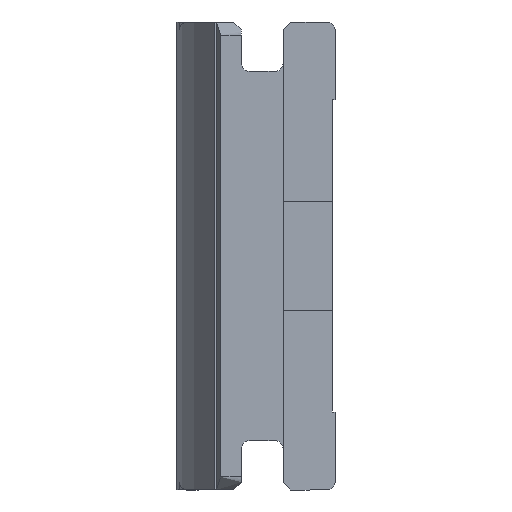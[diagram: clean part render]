
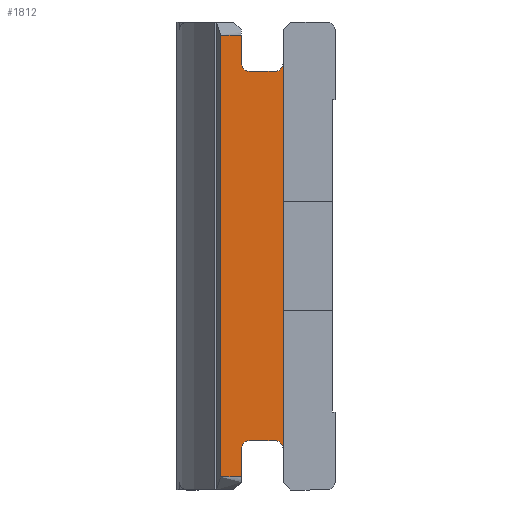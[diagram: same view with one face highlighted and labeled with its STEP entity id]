
A CAD part, left-side view. The second image highlights one B-rep face of the part: STEP entity #1812.
In plain terms, the highlighted planar face has unit normal (-1, 0, 0).
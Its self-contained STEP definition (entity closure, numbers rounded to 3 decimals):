
#34 = DIRECTION ( 'NONE',  ( 0., 0., -1. ) ) ;
#35 = DIRECTION ( 'NONE',  ( 0., -1., 0. ) ) ;
#41 = CARTESIAN_POINT ( 'NONE',  ( 10., 3.5, 7.4 ) ) ;
#63 = ORIENTED_EDGE ( 'NONE', *, *, #1537, .F. ) ;
#81 = CIRCLE ( 'NONE', #1804, 0.3 ) ;
#128 = ORIENTED_EDGE ( 'NONE', *, *, #358, .F. ) ;
#142 = CARTESIAN_POINT ( 'NONE',  ( 10., 2.2, -7.4 ) ) ;
#143 = VERTEX_POINT ( 'NONE', #41 ) ;
#147 = LINE ( 'NONE', #438, #1643 ) ;
#149 = DIRECTION ( 'NONE',  ( 0., 1., 0. ) ) ;
#173 = DIRECTION ( 'NONE',  ( -1., 0., 0. ) ) ;
#230 = EDGE_CURVE ( 'NONE', #945, #409, #698, .T. ) ;
#244 = CARTESIAN_POINT ( 'NONE',  ( 10., 4.3, -29.536 ) ) ;
#260 = ORIENTED_EDGE ( 'NONE', *, *, #1295, .F. ) ;
#266 = DIRECTION ( 'NONE',  ( -1., 0., 0. ) ) ;
#276 = DIRECTION ( 'NONE',  ( -1., 0., 0. ) ) ;
#305 = CARTESIAN_POINT ( 'NONE',  ( 10., 3.2, 7.4 ) ) ;
#347 = VECTOR ( 'NONE', #1265, 1000. ) ;
#358 = EDGE_CURVE ( 'NONE', #143, #515, #81, .T. ) ;
#371 = ORIENTED_EDGE ( 'NONE', *, *, #1756, .F. ) ;
#382 = CIRCLE ( 'NONE', #1050, 0.3 ) ;
#409 = VERTEX_POINT ( 'NONE', #1157 ) ;
#438 = CARTESIAN_POINT ( 'NONE',  ( 10., 1.9, -29.536 ) ) ;
#439 = EDGE_CURVE ( 'NONE', #1039, #1220, #1866, .T. ) ;
#488 = VERTEX_POINT ( 'NONE', #1143 ) ;
#515 = VERTEX_POINT ( 'NONE', #1582 ) ;
#518 = CARTESIAN_POINT ( 'NONE',  ( 10., 1.9, -8.5 ) ) ;
#527 = EDGE_CURVE ( 'NONE', #515, #806, #732, .T. ) ;
#548 = VERTEX_POINT ( 'NONE', #1302 ) ;
#567 = VECTOR ( 'NONE', #149, 1000. ) ;
#642 = CIRCLE ( 'NONE', #1697, 0.3 ) ;
#651 = VECTOR ( 'NONE', #1106, 1000. ) ;
#666 = EDGE_CURVE ( 'NONE', #806, #488, #382, .T. ) ;
#693 = DIRECTION ( 'NONE',  ( 0., 1., 0. ) ) ;
#698 = LINE ( 'NONE', #518, #347 ) ;
#716 = ORIENTED_EDGE ( 'NONE', *, *, #666, .F. ) ;
#729 = PLANE ( 'NONE',  #934 ) ;
#732 = LINE ( 'NONE', #1162, #1777 ) ;
#806 = VERTEX_POINT ( 'NONE', #906 ) ;
#807 = LINE ( 'NONE', #244, #831 ) ;
#810 = CARTESIAN_POINT ( 'NONE',  ( 10., 3.5, 8.7 ) ) ;
#828 = DIRECTION ( 'NONE',  ( 0., 0., -1. ) ) ;
#830 = DIRECTION ( 'NONE',  ( 0., 0., -1. ) ) ;
#831 = VECTOR ( 'NONE', #1091, 1000. ) ;
#845 = DIRECTION ( 'NONE',  ( 0., 0., -1. ) ) ;
#871 = DIRECTION ( 'NONE',  ( 0., 0., -1. ) ) ;
#884 = DIRECTION ( 'NONE',  ( 0., 0., -1. ) ) ;
#886 = CARTESIAN_POINT ( 'NONE',  ( 10., 3.5, 8.5 ) ) ;
#906 = CARTESIAN_POINT ( 'NONE',  ( 10., 2.2, 7.1 ) ) ;
#911 = ORIENTED_EDGE ( 'NONE', *, *, #1420, .F. ) ;
#919 = ORIENTED_EDGE ( 'NONE', *, *, #230, .T. ) ;
#934 = AXIS2_PLACEMENT_3D ( 'NONE', #1695, #1408, #828 ) ;
#945 = VERTEX_POINT ( 'NONE', #1407 ) ;
#964 = EDGE_CURVE ( 'NONE', #945, #1220, #807, .T. ) ;
#970 = LINE ( 'NONE', #810, #1511 ) ;
#1039 = VERTEX_POINT ( 'NONE', #886 ) ;
#1050 = AXIS2_PLACEMENT_3D ( 'NONE', #1462, #276, #34 ) ;
#1074 = ORIENTED_EDGE ( 'NONE', *, *, #1803, .F. ) ;
#1085 = ORIENTED_EDGE ( 'NONE', *, *, #964, .F. ) ;
#1091 = DIRECTION ( 'NONE',  ( 0., 0., 1. ) ) ;
#1106 = DIRECTION ( 'NONE',  ( 0., 0., -1. ) ) ;
#1129 = DIRECTION ( 'NONE',  ( -1., 0., 0. ) ) ;
#1139 = ORIENTED_EDGE ( 'NONE', *, *, #1793, .F. ) ;
#1143 = CARTESIAN_POINT ( 'NONE',  ( 10., 1.9, 7.4 ) ) ;
#1157 = CARTESIAN_POINT ( 'NONE',  ( 10., 3.5, -8.5 ) ) ;
#1162 = CARTESIAN_POINT ( 'NONE',  ( 10., 3.2, 7.1 ) ) ;
#1220 = VERTEX_POINT ( 'NONE', #1827 ) ;
#1233 = AXIS2_PLACEMENT_3D ( 'NONE', #142, #266, #1547 ) ;
#1252 = CARTESIAN_POINT ( 'NONE',  ( 10., 3.5, -8.7 ) ) ;
#1265 = DIRECTION ( 'NONE',  ( 0., -1., 0. ) ) ;
#1280 = LINE ( 'NONE', #1577, #1443 ) ;
#1295 = EDGE_CURVE ( 'NONE', #548, #409, #1382, .T. ) ;
#1302 = CARTESIAN_POINT ( 'NONE',  ( 10., 3.5, -7.4 ) ) ;
#1356 = CIRCLE ( 'NONE', #1233, 0.3 ) ;
#1382 = LINE ( 'NONE', #1252, #651 ) ;
#1407 = CARTESIAN_POINT ( 'NONE',  ( 10., 4.3, -8.5 ) ) ;
#1408 = DIRECTION ( 'NONE',  ( 1., 0., 0. ) ) ;
#1416 = CARTESIAN_POINT ( 'NONE',  ( 10., 3.2, -7.1 ) ) ;
#1417 = ORIENTED_EDGE ( 'NONE', *, *, #527, .F. ) ;
#1420 = EDGE_CURVE ( 'NONE', #1039, #143, #970, .T. ) ;
#1443 = VECTOR ( 'NONE', #693, 1000. ) ;
#1457 = VERTEX_POINT ( 'NONE', #1768 ) ;
#1462 = CARTESIAN_POINT ( 'NONE',  ( 10., 2.2, 7.4 ) ) ;
#1511 = VECTOR ( 'NONE', #830, 1000. ) ;
#1537 = EDGE_CURVE ( 'NONE', #488, #1696, #147, .T. ) ;
#1547 = DIRECTION ( 'NONE',  ( 0., 0., -1. ) ) ;
#1577 = CARTESIAN_POINT ( 'NONE',  ( 10., 3.2, -7.1 ) ) ;
#1582 = CARTESIAN_POINT ( 'NONE',  ( 10., 3.2, 7.1 ) ) ;
#1597 = CARTESIAN_POINT ( 'NONE',  ( 10., 1.9, 8.5 ) ) ;
#1642 = CARTESIAN_POINT ( 'NONE',  ( 10., 1.9, -7.4 ) ) ;
#1643 = VECTOR ( 'NONE', #871, 1000. ) ;
#1661 = EDGE_LOOP ( 'NONE', ( #911, #1858, #1085, #919, #260, #1074, #371, #1139, #63, #716, #1417, #128 ) ) ;
#1695 = CARTESIAN_POINT ( 'NONE',  ( 10., 1.9, -29.536 ) ) ;
#1696 = VERTEX_POINT ( 'NONE', #1642 ) ;
#1697 = AXIS2_PLACEMENT_3D ( 'NONE', #1834, #1129, #845 ) ;
#1727 = VERTEX_POINT ( 'NONE', #1416 ) ;
#1756 = EDGE_CURVE ( 'NONE', #1457, #1727, #1280, .T. ) ;
#1768 = CARTESIAN_POINT ( 'NONE',  ( 10., 2.2, -7.1 ) ) ;
#1777 = VECTOR ( 'NONE', #35, 1000. ) ;
#1793 = EDGE_CURVE ( 'NONE', #1696, #1457, #1356, .T. ) ;
#1803 = EDGE_CURVE ( 'NONE', #1727, #548, #642, .T. ) ;
#1804 = AXIS2_PLACEMENT_3D ( 'NONE', #305, #173, #884 ) ;
#1812 = ADVANCED_FACE ( 'NONE', ( #1842 ), #729, .F. ) ;
#1827 = CARTESIAN_POINT ( 'NONE',  ( 10., 4.3, 8.5 ) ) ;
#1834 = CARTESIAN_POINT ( 'NONE',  ( 10., 3.2, -7.4 ) ) ;
#1842 = FACE_OUTER_BOUND ( 'NONE', #1661, .T. ) ;
#1858 = ORIENTED_EDGE ( 'NONE', *, *, #439, .T. ) ;
#1866 = LINE ( 'NONE', #1597, #567 ) ;
